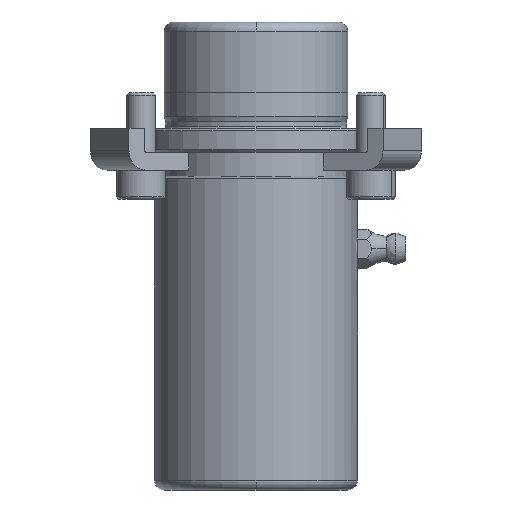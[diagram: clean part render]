
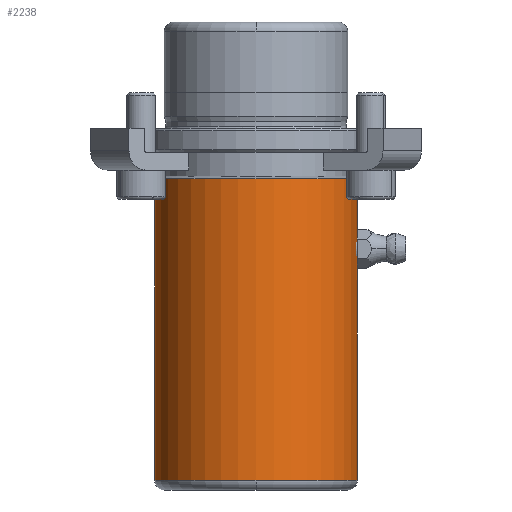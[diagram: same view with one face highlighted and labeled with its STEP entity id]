
A CAD part, front view. The second image highlights one B-rep face of the part: STEP entity #2238.
In plain terms, the highlighted cylindrical face has radius 21 mm (diameter 42 mm), a partial arc.
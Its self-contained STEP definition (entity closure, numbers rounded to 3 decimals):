
#604=CARTESIAN_POINT('',(0.,-21.,-73.0));
#605=VERTEX_POINT('',#604);
#613=CARTESIAN_POINT('',(-21.0,0.,-73.0));
#614=VERTEX_POINT('',#613);
#615=CARTESIAN_POINT('',(0.0,0.,-73.0));
#616=DIRECTION('',(0.0,0.0,-1.0));
#617=DIRECTION('',(1.0,0.0,0.0));
#618=AXIS2_PLACEMENT_3D('',#615,#616,#617);
#619=CIRCLE('',#618,21.);
#620=EDGE_CURVE('',#605,#614,#619,.T.);
#637=CARTESIAN_POINT('',(21.,0.,-73.0));
#638=VERTEX_POINT('',#637);
#639=CARTESIAN_POINT('',(21.0,0.,-27.5));
#640=VERTEX_POINT('',#639);
#641=CARTESIAN_POINT('',(21.,0.,-73.0));
#642=DIRECTION('',(0.0,0.0,1.0));
#643=VECTOR('',#642,45.5);
#644=LINE('',#641,#643);
#645=EDGE_CURVE('',#638,#640,#644,.T.);
#655=CARTESIAN_POINT('',(-21.0,0.,-10.5));
#656=VERTEX_POINT('',#655);
#657=CARTESIAN_POINT('',(-21.0,0.,-73.0));
#658=DIRECTION('',(0.0,0.0,1.0));
#659=VECTOR('',#658,62.5);
#660=LINE('',#657,#659);
#661=EDGE_CURVE('',#614,#656,#660,.T.);
#663=CARTESIAN_POINT('',(21.0,0.,-10.5));
#664=VERTEX_POINT('',#663);
#672=CARTESIAN_POINT('',(21.0,0.,-22.5));
#673=VERTEX_POINT('',#672);
#674=CARTESIAN_POINT('',(21.0,0.,-22.5));
#675=DIRECTION('',(0.0,0.0,1.0));
#676=VECTOR('',#675,12.0);
#677=LINE('',#674,#676);
#678=EDGE_CURVE('',#673,#664,#677,.T.);
#1577=CARTESIAN_POINT('',(20.851,-2.5,-25.0));
#1578=VERTEX_POINT('',#1577);
#1579=CARTESIAN_POINT('',(20.851,-2.5,-25.0));
#1580=CARTESIAN_POINT('',(20.851,-2.5,-24.843));
#1581=CARTESIAN_POINT('',(20.852,-2.485,-24.68));
#1582=CARTESIAN_POINT('',(20.86,-2.422,-24.357));
#1583=CARTESIAN_POINT('',(20.866,-2.373,-24.197));
#1584=CARTESIAN_POINT('',(20.88,-2.246,-23.889));
#1585=CARTESIAN_POINT('',(20.888,-2.166,-23.741));
#1586=CARTESIAN_POINT('',(20.906,-1.983,-23.468));
#1587=CARTESIAN_POINT('',(20.916,-1.879,-23.343));
#1588=CARTESIAN_POINT('',(20.935,-1.657,-23.121));
#1589=CARTESIAN_POINT('',(20.945,-1.532,-23.017));
#1590=CARTESIAN_POINT('',(20.963,-1.259,-22.834));
#1591=CARTESIAN_POINT('',(20.971,-1.111,-22.754));
#1592=CARTESIAN_POINT('',(20.985,-0.803,-22.627));
#1593=CARTESIAN_POINT('',(20.991,-0.643,-22.578));
#1594=CARTESIAN_POINT('',(20.998,-0.32,-22.515));
#1595=CARTESIAN_POINT('',(21.0,-0.157,-22.5));
#1596=CARTESIAN_POINT('',(21.0,0.,-22.5));
#1597=B_SPLINE_CURVE_WITH_KNOTS('',3,(#1579,#1580,#1581,#1582,#1583,#1584,#1585,#1586,#1587,#1588,#1589,#1590,#1591,#1592,#1593,#1594,#1595,#1596),.UNSPECIFIED.,.F.,.U.,(4,2,2,2,2,2,2,2,4),(0.0,0.471,0.943,1.414,1.885,2.357,2.828,3.299,3.771),.UNSPECIFIED.);
#1598=EDGE_CURVE('',#1578,#673,#1597,.T.);
#1600=CARTESIAN_POINT('',(21.0,0.,-27.5));
#1601=CARTESIAN_POINT('',(21.0,-0.157,-27.5));
#1602=CARTESIAN_POINT('',(20.998,-0.32,-27.485));
#1603=CARTESIAN_POINT('',(20.991,-0.643,-27.422));
#1604=CARTESIAN_POINT('',(20.985,-0.803,-27.373));
#1605=CARTESIAN_POINT('',(20.971,-1.111,-27.246));
#1606=CARTESIAN_POINT('',(20.963,-1.259,-27.166));
#1607=CARTESIAN_POINT('',(20.945,-1.532,-26.983));
#1608=CARTESIAN_POINT('',(20.935,-1.657,-26.879));
#1609=CARTESIAN_POINT('',(20.916,-1.879,-26.657));
#1610=CARTESIAN_POINT('',(20.906,-1.983,-26.532));
#1611=CARTESIAN_POINT('',(20.888,-2.166,-26.259));
#1612=CARTESIAN_POINT('',(20.88,-2.246,-26.111));
#1613=CARTESIAN_POINT('',(20.866,-2.373,-25.803));
#1614=CARTESIAN_POINT('',(20.86,-2.422,-25.643));
#1615=CARTESIAN_POINT('',(20.852,-2.485,-25.32));
#1616=CARTESIAN_POINT('',(20.851,-2.5,-25.157));
#1617=CARTESIAN_POINT('',(20.851,-2.5,-25.0));
#1618=B_SPLINE_CURVE_WITH_KNOTS('',3,(#1600,#1601,#1602,#1603,#1604,#1605,#1606,#1607,#1608,#1609,#1610,#1611,#1612,#1613,#1614,#1615,#1616,#1617),.UNSPECIFIED.,.F.,.U.,(4,2,2,2,2,2,2,2,4),(11.312,11.783,12.255,12.726,13.197,13.669,14.14,14.611,15.083),.UNSPECIFIED.);
#1619=EDGE_CURVE('',#640,#1578,#1618,.T.);
#2207=CARTESIAN_POINT('',(0.0,0.,-10.5));
#2208=DIRECTION('',(0.0,0.0,-1.0));
#2209=DIRECTION('',(1.0,0.0,0.0));
#2210=AXIS2_PLACEMENT_3D('',#2207,#2208,#2209);
#2211=CIRCLE('',#2210,21.0);
#2212=EDGE_CURVE('',#664,#656,#2211,.T.);
#2217=CARTESIAN_POINT('',(0.0,0.,-41.75));
#2218=DIRECTION('',(0.0,0.,-1.0));
#2219=DIRECTION('',(1.0,0.0,0.0));
#2220=AXIS2_PLACEMENT_3D('',#2217,#2218,#2219);
#2221=CYLINDRICAL_SURFACE('',#2220,21.0);
#2222=ORIENTED_EDGE('',*,*,#645,.T.);
#2223=ORIENTED_EDGE('',*,*,#1619,.T.);
#2224=ORIENTED_EDGE('',*,*,#1598,.T.);
#2225=ORIENTED_EDGE('',*,*,#678,.T.);
#2226=ORIENTED_EDGE('',*,*,#2212,.T.);
#2227=ORIENTED_EDGE('',*,*,#661,.F.);
#2228=ORIENTED_EDGE('',*,*,#620,.F.);
#2229=CARTESIAN_POINT('',(0.0,0.,-73.0));
#2230=DIRECTION('',(0.0,0.0,-1.0));
#2231=DIRECTION('',(1.0,0.0,0.0));
#2232=AXIS2_PLACEMENT_3D('',#2229,#2230,#2231);
#2233=CIRCLE('',#2232,21.);
#2234=EDGE_CURVE('',#638,#605,#2233,.T.);
#2235=ORIENTED_EDGE('',*,*,#2234,.F.);
#2236=EDGE_LOOP('',(#2222,#2223,#2224,#2225,#2226,#2227,#2228,#2235));
#2237=FACE_OUTER_BOUND('',#2236,.T.);
#2238=ADVANCED_FACE('',(#2237),#2221,.T.);
